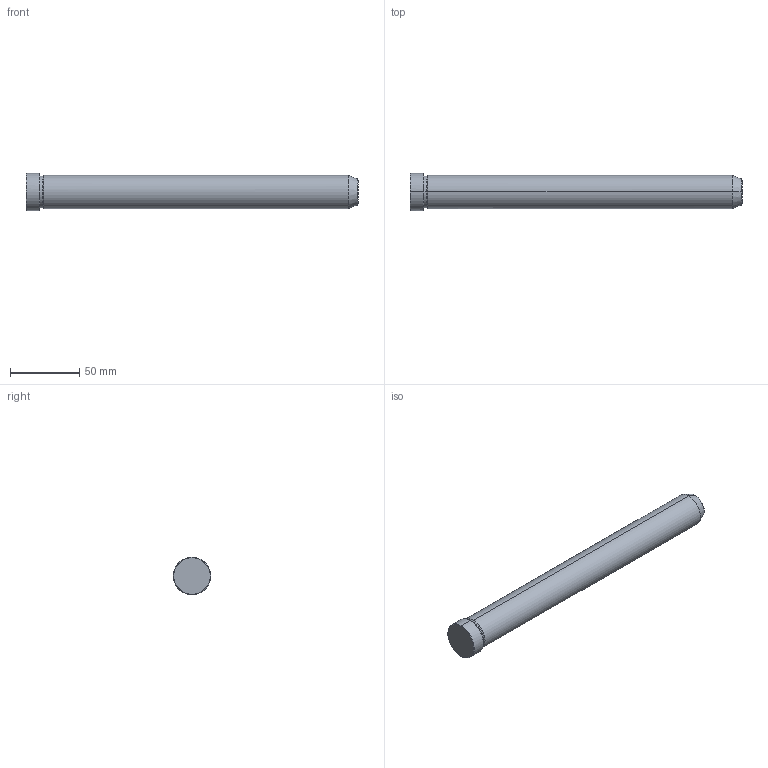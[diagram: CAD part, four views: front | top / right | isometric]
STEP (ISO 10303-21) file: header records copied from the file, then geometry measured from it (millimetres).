
FILE_DESCRIPTION(('CATIA V5 STEP Exchange'),'2;1');
FILE_NAME('C:\Users\Utente\Desktop\IO LAVORO\3D X SITO CF\X SITO\PLASTICA\549\549-24X240.stp','2021-12-13T13:18:06+00:00',('none'),('none'),'CATIA Version 5 Release 20 GA (IN-10)','CATIA V5 STEP AP203','none');
FILE_SCHEMA(('CONFIG_CONTROL_DESIGN'));
Length unit declared in the file: millimetre
Products named in the file (1): 549-24X240
Bounding box: 240 x 27 x 27 mm (x, y, z)
Volume: 108985.3 mm3; surface area: 19120.8 mm2
Topology: 1 solids, 1 shells, 19 faces, 56 edges, 40 vertices
Faces by surface type: cone 8, cylinder 6, plane 3, torus 2
Entity records: 736 total; most frequent: CARTESIAN_POINT 192, ORIENTED_EDGE 112, DIRECTION 86, EDGE_CURVE 56, AXIS2_PLACEMENT_3D 54, VERTEX_POINT 40, CIRCLE 34, EDGE_LOOP 20
